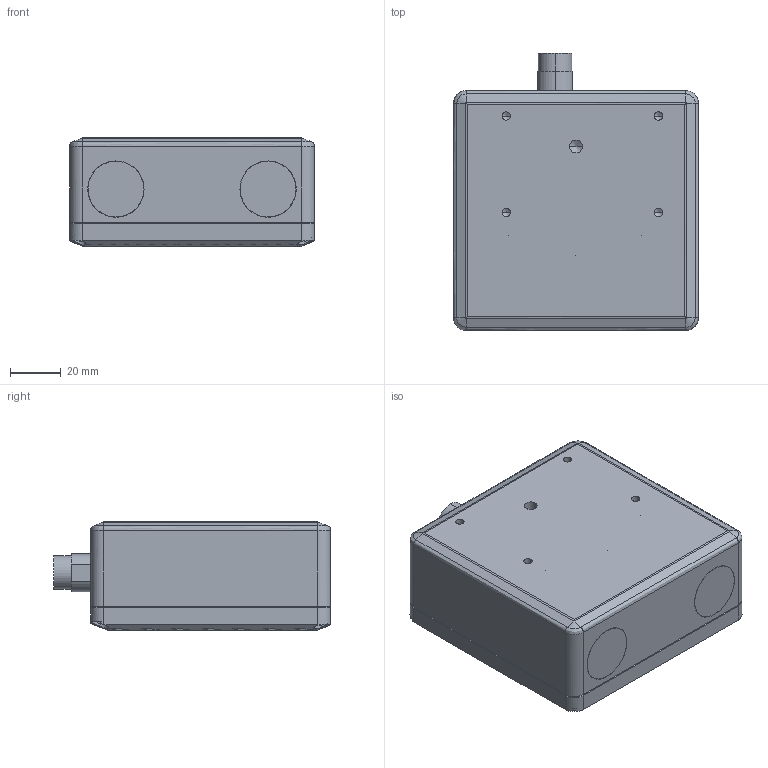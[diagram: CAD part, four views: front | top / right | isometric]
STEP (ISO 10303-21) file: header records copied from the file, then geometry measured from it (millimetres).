
FILE_DESCRIPTION (( 'STEP AP203' ), '1' );
FILE_NAME ('KINGFISHER-S-602.STEP', '2026-05-27T06:10:07', ( '' ), ( '' ), 'SwSTEP 2.0', 'SolidWorks 2024', '' );
FILE_SCHEMA (( 'CONFIG_CONTROL_DESIGN' ));
Length unit declared in the file: millimetre
Products named in the file (17): CMOS传感器-kfc-C; 相机计算文件1-C; 双目固定板-2-C; 灯板装配体1-C; 镜头紧固-C; KINGFISHER-S-602; 22直径镜片1-C; KFC用小senser-C; Luoke-M12W060-8MP; pcb上1-C; KFC-V2上盖-260506-适配长镜头; 6063-LED-1-C; KFCV2灯板2-C; 1213连接头1; KFC-V2底壳-260506适配长镜头; 相机安装件塑料改铝-压紧固1-C
Assembly tree (20 placements, depth 3):
  KINGFISHER-S-602
    双目固定板-2-C
    KFC用小senser-C
      CMOS传感器-kfc-C
      相机安装件塑料改铝-压紧固1-C
    KFC用小senser-C
      CMOS传感器-kfc-C
      镜头紧固-C
      相机安装件塑料改铝-压紧固1-C
    Luoke-M12W060-8MP  x2
    KFC-V2底壳-260506适配长镜头
    相机计算文件1-C
    pcb上1-C
    灯板装配体1-C
      KFCV2灯板2-C
      6063-LED-1-C
    1213连接头1
    KFC-V2上盖-260506-适配长镜头
    22直径镜片1-C  x2
Bounding box: 96.5 x 109.2 x 42.6 mm (x, y, z)
Volume: 155724.6 mm3; surface area: 109479.9 mm2
Topology: 33 solids, 33 shells, 2588 faces, 6703 edges, 4331 vertices
Faces by surface type: plane 1455, cylinder 591, bspline 348, cone 174, torus 16, sphere 4
Entity records: 102110 total; most frequent: CARTESIAN_POINT 43831, ORIENTED_EDGE 12246, DIRECTION 10480, EDGE_CURVE 6123, VECTOR 4162, LINE 4162, VERTEX_POINT 3983, AXIS2_PLACEMENT_3D 3159
